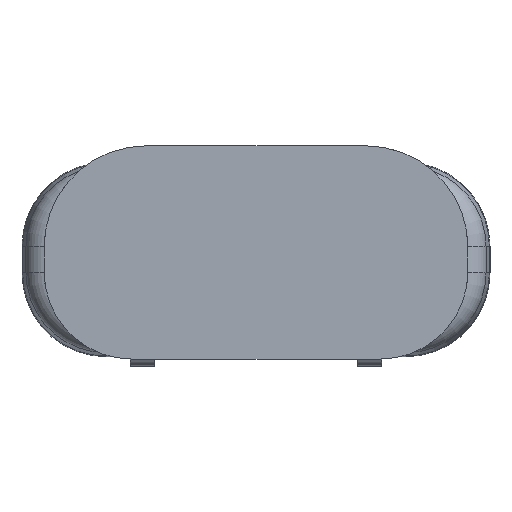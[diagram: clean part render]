
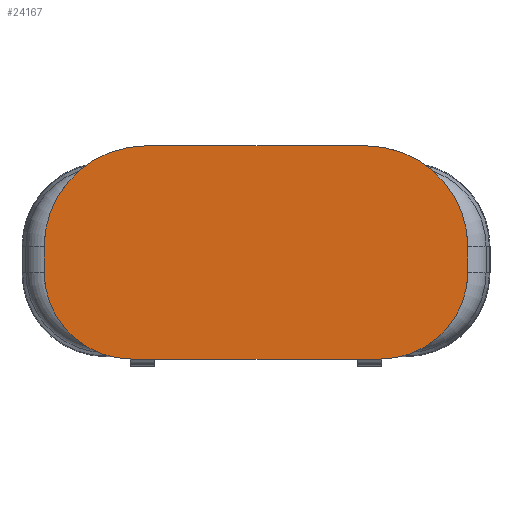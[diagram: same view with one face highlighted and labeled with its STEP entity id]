
A CAD part, front view. The second image highlights one B-rep face of the part: STEP entity #24167.
In plain terms, the highlighted planar face has unit normal (0, -1, 0) as drawn and (0, 0, -1) by its records, which use the part's own axes.
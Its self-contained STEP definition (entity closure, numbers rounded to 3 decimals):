
#10 = VERTEX_POINT ( 'NONE', #3326 ) ;
#39 = DIRECTION ( 'NONE',  ( -1., 0., 0. ) ) ;
#1096 = DIRECTION ( 'NONE',  ( 0., -1., 0. ) ) ;
#1591 = VECTOR ( 'NONE', #13735, 1000. ) ;
#1783 = DIRECTION ( 'NONE',  ( 0., 1., 0. ) ) ;
#2781 = CARTESIAN_POINT ( 'NONE',  ( 4.475, 0.4, -0.25 ) ) ;
#3326 = CARTESIAN_POINT ( 'NONE',  ( -2.625, 2.25, -0.25 ) ) ;
#3514 = DIRECTION ( 'NONE',  ( 0., 0., 1. ) ) ;
#3709 = ORIENTED_EDGE ( 'NONE', *, *, #37899, .F. ) ;
#4192 = ORIENTED_EDGE ( 'NONE', *, *, #5914, .F. ) ;
#4257 = DIRECTION ( 'NONE',  ( 1., 0., 0. ) ) ;
#4710 = AXIS2_PLACEMENT_3D ( 'NONE', #24197, #14657, #30099 ) ;
#5558 = DIRECTION ( 'NONE',  ( 0., 0., 1. ) ) ;
#5914 = EDGE_CURVE ( 'NONE', #8438, #10, #6731, .T. ) ;
#5995 = VECTOR ( 'NONE', #1783, 1000. ) ;
#6022 = CIRCLE ( 'NONE', #4710, 2.15 ) ;
#6158 = AXIS2_PLACEMENT_3D ( 'NONE', #16117, #3514, #25673 ) ;
#6731 = LINE ( 'NONE', #9398, #15705 ) ;
#6739 = CIRCLE ( 'NONE', #16468, 1.85 ) ;
#7504 = DIRECTION ( 'NONE',  ( 0., 0., 1. ) ) ;
#7570 = VERTEX_POINT ( 'NONE', #11105 ) ;
#8144 = EDGE_CURVE ( 'NONE', #12649, #35323, #37312, .T. ) ;
#8438 = VERTEX_POINT ( 'NONE', #13207 ) ;
#9133 = CARTESIAN_POINT ( 'NONE',  ( 2.325, -2.25, -0.25 ) ) ;
#9398 = CARTESIAN_POINT ( 'NONE',  ( 0., 2.25, -0.25 ) ) ;
#9411 = ORIENTED_EDGE ( 'NONE', *, *, #36385, .T. ) ;
#9924 = EDGE_LOOP ( 'NONE', ( #30865, #36576, #20669, #31518, #36875, #9411, #3709, #4192 ) ) ;
#11105 = CARTESIAN_POINT ( 'NONE',  ( -2.325, -2.25, -0.25 ) ) ;
#12181 = EDGE_CURVE ( 'NONE', #19683, #8438, #6739, .T. ) ;
#12649 = VERTEX_POINT ( 'NONE', #9133 ) ;
#13135 = CARTESIAN_POINT ( 'NONE',  ( 0., -2.25, -0.25 ) ) ;
#13207 = CARTESIAN_POINT ( 'NONE',  ( 2.625, 2.25, -0.25 ) ) ;
#13595 = CARTESIAN_POINT ( 'NONE',  ( 0., 0., -0.25 ) ) ;
#13735 = DIRECTION ( 'NONE',  ( 1., 0., 0. ) ) ;
#13963 = LINE ( 'NONE', #13135, #1591 ) ;
#13994 = LINE ( 'NONE', #29643, #5995 ) ;
#14657 = DIRECTION ( 'NONE',  ( 0., 0., 1. ) ) ;
#14897 = DIRECTION ( 'NONE',  ( -1., 0., 0. ) ) ;
#15583 = AXIS2_PLACEMENT_3D ( 'NONE', #13595, #7504, #4257 ) ;
#15705 = VECTOR ( 'NONE', #39, 1000. ) ;
#16117 = CARTESIAN_POINT ( 'NONE',  ( 2.325, -0.1, -0.25 ) ) ;
#16468 = AXIS2_PLACEMENT_3D ( 'NONE', #17358, #5558, #14897 ) ;
#16547 = EDGE_CURVE ( 'NONE', #19683, #35323, #31597, .T. ) ;
#17326 = EDGE_CURVE ( 'NONE', #7570, #12649, #13963, .T. ) ;
#17358 = CARTESIAN_POINT ( 'NONE',  ( 2.625, 0.4, -0.25 ) ) ;
#19683 = VERTEX_POINT ( 'NONE', #2781 ) ;
#19953 = CARTESIAN_POINT ( 'NONE',  ( -4.475, -0.1, -0.25 ) ) ;
#20428 = VERTEX_POINT ( 'NONE', #35761 ) ;
#20669 = ORIENTED_EDGE ( 'NONE', *, *, #8144, .F. ) ;
#22201 = CIRCLE ( 'NONE', #35165, 1.85 ) ;
#23067 = VECTOR ( 'NONE', #1096, 1000. ) ;
#24167 = ADVANCED_FACE ( 'NONE', ( #38604 ), #26201, .F. ) ;
#24197 = CARTESIAN_POINT ( 'NONE',  ( -2.325, -0.1, -0.25 ) ) ;
#25673 = DIRECTION ( 'NONE',  ( -1., 0., 0. ) ) ;
#26089 = CARTESIAN_POINT ( 'NONE',  ( 4.475, 2.25, -0.25 ) ) ;
#26127 = CARTESIAN_POINT ( 'NONE',  ( -2.625, 0.4, -0.25 ) ) ;
#26201 = PLANE ( 'NONE',  #15583 ) ;
#26349 = DIRECTION ( 'NONE',  ( 0., 0., 1. ) ) ;
#27972 = VERTEX_POINT ( 'NONE', #19953 ) ;
#29605 = DIRECTION ( 'NONE',  ( -1., 0., 0. ) ) ;
#29643 = CARTESIAN_POINT ( 'NONE',  ( -4.475, 2.25, -0.25 ) ) ;
#30099 = DIRECTION ( 'NONE',  ( -1., 0., 0. ) ) ;
#30865 = ORIENTED_EDGE ( 'NONE', *, *, #12181, .F. ) ;
#31518 = ORIENTED_EDGE ( 'NONE', *, *, #17326, .F. ) ;
#31597 = LINE ( 'NONE', #26089, #23067 ) ;
#34224 = EDGE_CURVE ( 'NONE', #27972, #7570, #6022, .T. ) ;
#35165 = AXIS2_PLACEMENT_3D ( 'NONE', #26127, #26349, #29605 ) ;
#35323 = VERTEX_POINT ( 'NONE', #39367 ) ;
#35761 = CARTESIAN_POINT ( 'NONE',  ( -4.475, 0.4, -0.25 ) ) ;
#36385 = EDGE_CURVE ( 'NONE', #27972, #20428, #13994, .T. ) ;
#36576 = ORIENTED_EDGE ( 'NONE', *, *, #16547, .T. ) ;
#36875 = ORIENTED_EDGE ( 'NONE', *, *, #34224, .F. ) ;
#37312 = CIRCLE ( 'NONE', #6158, 2.15 ) ;
#37899 = EDGE_CURVE ( 'NONE', #10, #20428, #22201, .T. ) ;
#38604 = FACE_OUTER_BOUND ( 'NONE', #9924, .T. ) ;
#39367 = CARTESIAN_POINT ( 'NONE',  ( 4.475, -0.1, -0.25 ) ) ;
